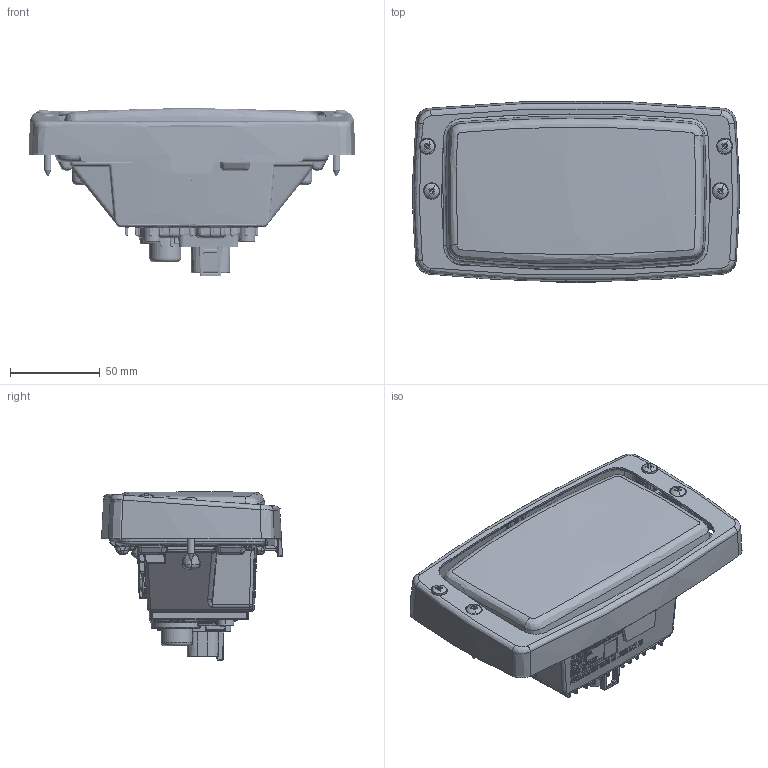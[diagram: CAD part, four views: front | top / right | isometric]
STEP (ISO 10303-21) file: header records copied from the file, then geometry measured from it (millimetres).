
FILE_DESCRIPTION(('CATIA V5 STEP Exchange','CAx-IF Rec.Pracs.--- Model Styling and Organization---1.5--- 2016-08-15','CAx-IF Rec.Pracs.---Supplemental Geometry---1.0---2011-11-01','CAx-IF Rec.Pracs.---Representation and Presentation of Product Manufacturing Information (PMI)---4.0---2014-10-13','CAx-IF Rec.Pracs.--- Composite Materials ---3.4---2017-06-13','CAx-IF Rec.Pracs.---Tessellated 3D Geometry---1.0---2015-12-17'),'2;1');
FILE_NAME('C:\Users\kumaan57\FORVIA\Welcome to the SOE Marketing Team Site - 03_3D data + mounting instruction\Postcard-327.210-00\327.210-00.stp','2026-05-25T07:22:39+00:00',('none'),('none'),'CATIA Version 5-6 Release 2024 SP3 HF29','CATIA V5 STEP AP242 v3','none');
FILE_SCHEMA(('AP242_MANAGED_MODEL_BASED_3D_ENGINEERING_MIM_LF {1 0 10303 442 3 1 4}'));
Products named in the file (1): 327.210-00
Bounding box: 182.45 x 100.99 x 93.87 mm (x, y, z)
Volume: 660732.3 mm3; surface area: 100506.6 mm2
Topology: 1 solids, 5 shells, 7776 faces, 20395 edges, 12739 vertices
Faces by surface type: plane 3163, extrusion 1703, bspline 1550, cylinder 901, sphere 224, torus 118, cone 117
Entity records: 370958 total; most frequent: CARTESIAN_POINT 213039, ORIENTED_EDGE 40218, EDGE_CURVE 20109, DIRECTION 17770, VERTEX_POINT 12739, B_SPLINE_CURVE_WITH_KNOTS 12283, VECTOR 9816, EDGE_LOOP 8214
